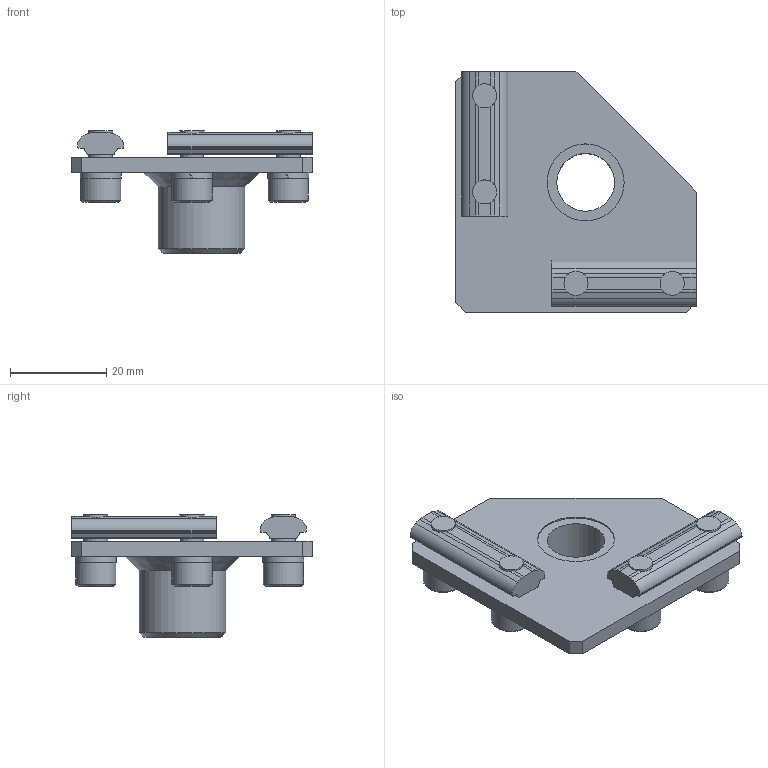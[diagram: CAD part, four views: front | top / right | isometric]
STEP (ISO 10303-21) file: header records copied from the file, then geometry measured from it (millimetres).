
FILE_DESCRIPTION(('STEP AP214'),'1');
FILE_NAME('LP25-M12.stp','2021-12-27T09:33:51',(' '),(' '),'Spatial InterOp 3D',' ',' ');
FILE_SCHEMA(('AUTOMOTIVE_DESIGN { 1 0 10303 214 1 1 1 1 }'));
Length unit declared in the file: millimetre
Products named in the file (5): LP25-M12; M5SW; ねじ: 穴付き - M5.0 x 10.0; NFM5-P20
Assembly tree (11 placements, depth 2):
  LP25-M12
    M5SW  x4
    ねじ: 穴付き - M5.0 x 10.0  x4
    LP25-M12
    NFM5-P20  x2
Bounding box: 50 x 50 x 25.5 mm (x, y, z)
Volume: 12659.2 mm3; surface area: 10215.9 mm2
Topology: 11 solids, 11 shells, 157 faces, 382 edges, 253 vertices
Faces by surface type: plane 96, cylinder 51, cone 10
Full cylindrical faces by diameter (mm): 5 x4, 5.5 x4, 8.385 x4, 12 x1, 16 x1, 18 x1
Entity records: 2802 total; most frequent: CARTESIAN_POINT 398, DIRECTION 376, ORIENTED_EDGE 322, EDGE_CURVE 161, AXIS2_PLACEMENT_3D 141, VERTEX_POINT 115, EDGE_LOOP 100, LINE 94
